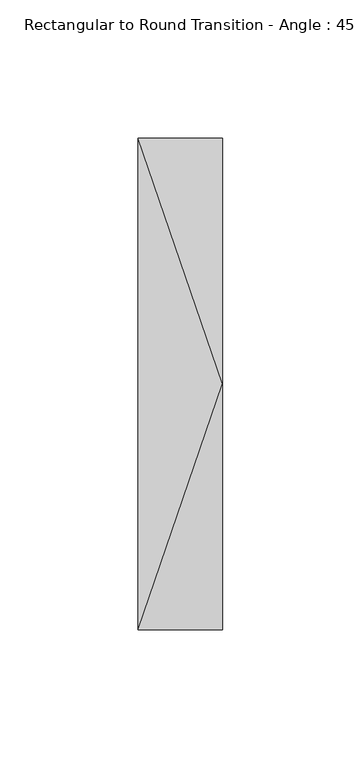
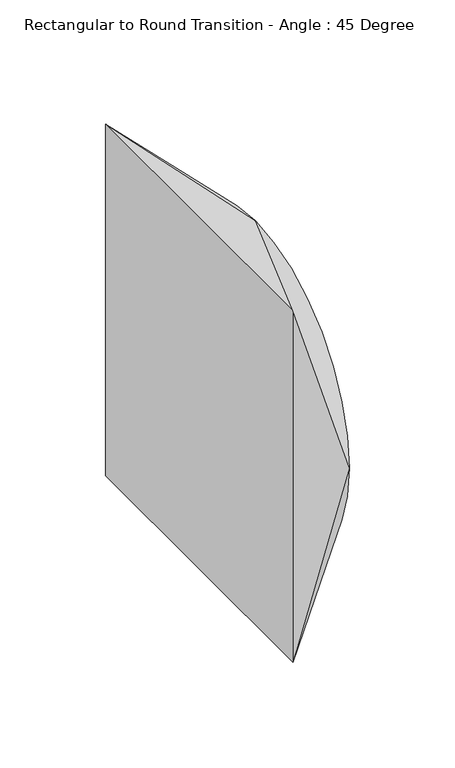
"""IFC4 building model written with IfcOpenShell, lengths in millimetres: duct fitting geometry, Rectangular to Round Transition - Angle : 45 Degree."""

from ifc_helpers import new_model, si_unit, frame, origin, place, context, project, spatial, circle_curve, source, transform, mapped, element, save
from ifc_brep_helpers import plane_surface, spline_surface, advanced_brep


def rectangular_to_round_transition_angle_45_degree_ccfbbdd0(model_context):
    return source(origin(), model_context, "Body", "AdvancedBrep", [
        advanced_brep(
        [(30.6605122, 0.0, 88.9), (30.6605122, -88.9, 0.0), (30.6605122, 0.0, -88.9), (30.6605122, 88.9, 0.0), (0.0, -88.9, 101.6), (0.0, 88.9, 101.6), (0.0, 88.9, -101.6), (0.0, -88.9, -101.6)],
        [
            (0, 1, circle_curve(frame((30.6605122, 0.0, 0.0), z_axis=(1.0, 0.0, 0.0), x_axis=(0.0, 1.0, 0.0)), 88.9)),
            (1, 2, circle_curve(frame((30.6605122, 0.0, 0.0), z_axis=(1.0, 0.0, 0.0), x_axis=(0.0, 1.0, 0.0)), 88.9)),
            (2, 3, circle_curve(frame((30.6605122, 0.0, 0.0), z_axis=(1.0, 0.0, 0.0), x_axis=(0.0, 1.0, 0.0)), 88.9)),
            (3, 0, circle_curve(frame((30.6605122, 0.0, 0.0), z_axis=(1.0, 0.0, 0.0), x_axis=(0.0, 1.0, 0.0)), 88.9)),
            (4, 5),
            (5, 6),
            (6, 7),
            (7, 4),
            (0, 4),
            (4, 1),
            (7, 1),
            (7, 2),
            (6, 2),
            (6, 3),
            (5, 3),
            (5, 0),
        ],
        [
            plane_surface(frame((30.6605122, 0.0, 0.0), z_axis=(1.0, 0.0, 0.0), x_axis=(0.0, 0.0, -1.0))),
            plane_surface(frame((0.0, 0.0, 0.0), z_axis=(-1.0, 0.0, 0.0), x_axis=(0.0, 0.0, -1.0))),
            spline_surface(2, 1, [[(0.0, -88.9, 101.6), (30.6605122, 0.0, 88.9)], [(0.0, -88.9, 101.6), (30.6605122, -88.9, 88.9)], [(0.0, -88.9, 101.6), (30.6605122, -88.9, 0.0)]], [3, 3], [2, 2], [0.0, 1.0], [0.0, 1.0], weights=[[1.0, 1.0], [0.7071067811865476, 0.7071067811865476], [1.0, 1.0]]),
            plane_surface(frame((0.0, -88.9, 0.0), z_axis=(0.0, -1.0, 0.0), x_axis=(0.0, 0.0, -1.0))),
            spline_surface(2, 1, [[(0.0, -88.9, -101.6), (30.6605122, -88.9, 0.0)], [(0.0, -88.9, -101.6), (30.6605122, -88.9, -88.9)], [(0.0, -88.9, -101.6), (30.6605122, 0.0, -88.9)]], [3, 3], [2, 2], [0.0, 1.0], [0.0, 1.0], weights=[[1.0, 1.0], [0.7071067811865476, 0.7071067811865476], [1.0, 1.0]]),
            plane_surface(frame((0.0, 0.0, -101.6), z_axis=(0.3826834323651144, 0.0, -0.9238795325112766), x_axis=(0.0, 1.0, 0.0))),
            spline_surface(2, 1, [[(0.0, 88.9, -101.6), (30.6605122, 0.0, -88.9)], [(0.0, 88.9, -101.6), (30.6605122, 88.9, -88.9)], [(0.0, 88.9, -101.6), (30.6605122, 88.9, 0.0)]], [3, 3], [2, 2], [0.0, 1.0], [0.0, 1.0], weights=[[1.0, 1.0], [0.7071067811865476, 0.7071067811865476], [1.0, 1.0]]),
            plane_surface(frame((0.0, 88.9, 0.0), z_axis=(0.0, 1.0, 0.0), x_axis=(0.0, 0.0, 1.0))),
            spline_surface(2, 1, [[(0.0, 88.9, 101.6), (30.6605122, 88.9, 0.0)], [(0.0, 88.9, 101.6), (30.6605122, 88.9, 88.9)], [(0.0, 88.9, 101.6), (30.6605122, 0.0, 88.9)]], [3, 3], [2, 2], [0.0, 1.0], [0.0, 1.0], weights=[[1.0, 1.0], [0.7071067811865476, 0.7071067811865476], [1.0, 1.0]]),
            plane_surface(frame((0.0, 0.0, 101.6), z_axis=(0.38268343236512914, 0.0, 0.9238795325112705), x_axis=(0.0, -1.0, 0.0))),
        ],
        [
            (0, [[1, 2, 3, 4]]),
            (1, [[5, 6, 7, 8]]),
            (2, [[-1, 9, 10]]),
            (3, [[-8, 11, -10]]),
            (4, [[-2, -11, 12]]),
            (5, [[-7, 13, -12]]),
            (6, [[-3, -13, 14]]),
            (7, [[-6, 15, -14]]),
            (8, [[-4, -15, 16]]),
            (9, [[-5, -9, -16]]),
        ],
    ),
    ])


if __name__ == "__main__":
    model = new_model("IFC4")
    model_context = context("Model", 3, world=origin())
    ifc_project = project(units=[si_unit("LENGTHUNIT", "METRE", prefix="MILLI")], contexts=[model_context])
    site = spatial("IfcSite", under=ifc_project)
    building = spatial("IfcBuilding", under=site)
    placement = place(None, origin())
    rectangular_to_round_transition_angle_45_degree_shape = rectangular_to_round_transition_angle_45_degree_ccfbbdd0(model_context)
    element("IfcDuctFitting", 1, ObjectType="Rectangular to Round Transition - Angle : 45 Degree", at=placement, inside=building, context=model_context, shape_type="MappedRepresentation", body=[
        mapped(rectangular_to_round_transition_angle_45_degree_shape, transform((0.0, 0.0, 0.0), x_axis=(1.0, 0.0, 0.0), y_axis=(0.0, 1.0, 0.0), z_axis=(0.0, 0.0, 1.0))),
    ])
    save(model, "model.ifc")
